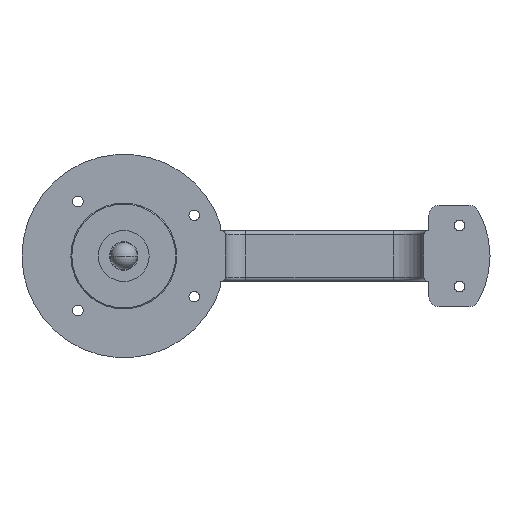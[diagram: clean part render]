
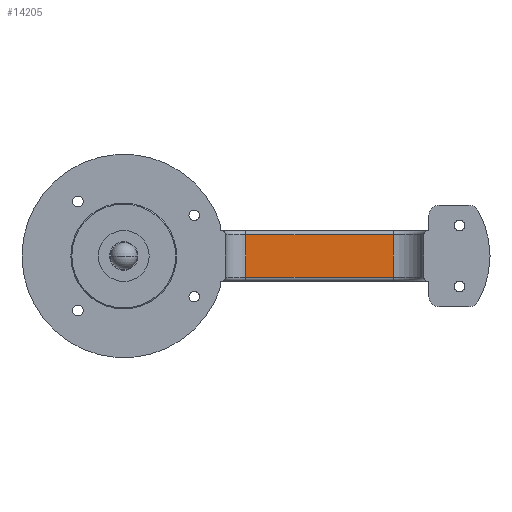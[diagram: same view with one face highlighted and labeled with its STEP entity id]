
A CAD part, left-side view. The second image highlights one B-rep face of the part: STEP entity #14205.
In plain terms, the highlighted planar face has unit normal (-1, 0, 0).
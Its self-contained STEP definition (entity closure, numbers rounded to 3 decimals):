
#417 = VECTOR ( 'NONE', #10119, 1000. ) ;
#874 = CARTESIAN_POINT ( 'NONE',  ( -35.5, -132.5, -10.5 ) ) ;
#1262 = ORIENTED_EDGE ( 'NONE', *, *, #16582, .T. ) ;
#1650 = CARTESIAN_POINT ( 'NONE',  ( -35.5, -60., -10.5 ) ) ;
#2091 = CARTESIAN_POINT ( 'NONE',  ( -35.5, -60., 12.5 ) ) ;
#2432 = DIRECTION ( 'NONE',  ( 0., 0., -1. ) ) ;
#2978 = ORIENTED_EDGE ( 'NONE', *, *, #12588, .F. ) ;
#3311 = VERTEX_POINT ( 'NONE', #4662 ) ;
#4662 = CARTESIAN_POINT ( 'NONE',  ( -35.5, -60., 10.5 ) ) ;
#5051 = CARTESIAN_POINT ( 'NONE',  ( -35.5, -132.5, 12.5 ) ) ;
#5975 = LINE ( 'NONE', #11471, #17793 ) ;
#6535 = VERTEX_POINT ( 'NONE', #1650 ) ;
#6635 = CARTESIAN_POINT ( 'NONE',  ( -35.5, -132.5, -10.5 ) ) ;
#6662 = FACE_OUTER_BOUND ( 'NONE', #13642, .T. ) ;
#6672 = EDGE_CURVE ( 'NONE', #3311, #6535, #11898, .T. ) ;
#7025 = EDGE_CURVE ( 'NONE', #6535, #15524, #10516, .T. ) ;
#7565 = CARTESIAN_POINT ( 'NONE',  ( -35.5, -60., 10.5 ) ) ;
#8754 = ORIENTED_EDGE ( 'NONE', *, *, #7025, .T. ) ;
#9173 = DIRECTION ( 'NONE',  ( 0., 1., 0. ) ) ;
#9286 = DIRECTION ( 'NONE',  ( 1., 0., 0. ) ) ;
#9508 = VECTOR ( 'NONE', #9173, 1000. ) ;
#9623 = VECTOR ( 'NONE', #17457, 1000. ) ;
#10119 = DIRECTION ( 'NONE',  ( 0., 0., -1. ) ) ;
#10126 = DIRECTION ( 'NONE',  ( 0., 0., -1. ) ) ;
#10266 = LINE ( 'NONE', #7565, #9508 ) ;
#10516 = LINE ( 'NONE', #874, #9623 ) ;
#10587 = CARTESIAN_POINT ( 'NONE',  ( -35.5, -132.5, 10.5 ) ) ;
#11471 = CARTESIAN_POINT ( 'NONE',  ( -35.5, -132.5, 12.5 ) ) ;
#11898 = LINE ( 'NONE', #2091, #417 ) ;
#12150 = PLANE ( 'NONE',  #17543 ) ;
#12588 = EDGE_CURVE ( 'NONE', #16969, #15524, #5975, .T. ) ;
#13596 = ORIENTED_EDGE ( 'NONE', *, *, #6672, .T. ) ;
#13642 = EDGE_LOOP ( 'NONE', ( #13596, #8754, #2978, #1262 ) ) ;
#14205 = ADVANCED_FACE ( 'NONE', ( #6662 ), #12150, .F. ) ;
#15524 = VERTEX_POINT ( 'NONE', #6635 ) ;
#16582 = EDGE_CURVE ( 'NONE', #16969, #3311, #10266, .T. ) ;
#16969 = VERTEX_POINT ( 'NONE', #10587 ) ;
#17457 = DIRECTION ( 'NONE',  ( 0., -1., 0. ) ) ;
#17543 = AXIS2_PLACEMENT_3D ( 'NONE', #5051, #9286, #2432 ) ;
#17793 = VECTOR ( 'NONE', #10126, 1000. ) ;
